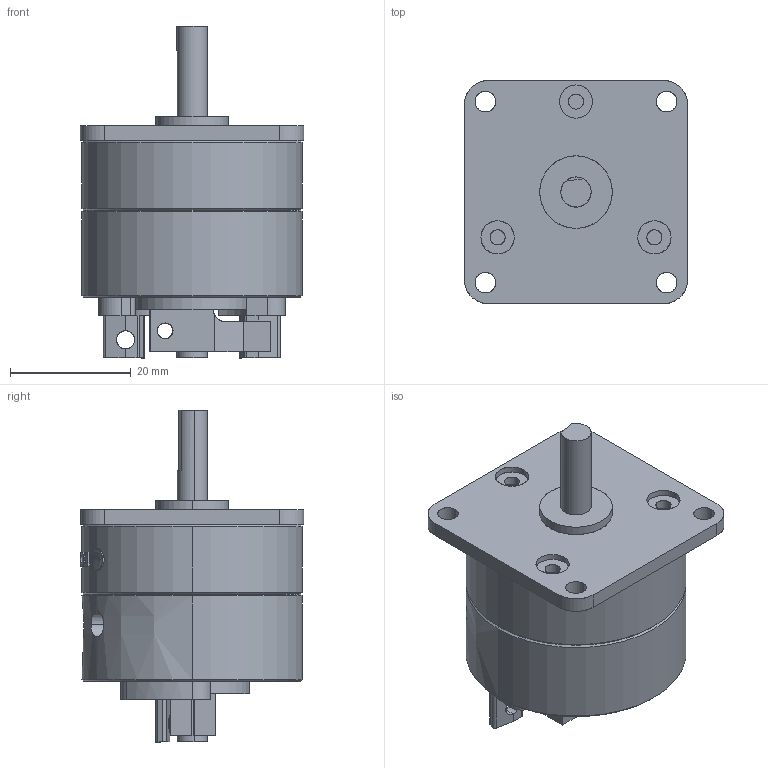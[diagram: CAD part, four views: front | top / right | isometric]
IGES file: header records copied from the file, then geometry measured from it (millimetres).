
Start section: SolidWorks IGES file using analytic representation for surfaces
Global section: file name: C:\Users\Chieh_Lu\Dropbox\¤u§@«Ç\PRO\PROA3S\PROA3S-#-#\PROA3S-#-#-P.IGS; native system: SolidWorks 2014; preprocessor: SolidWorks 2014; author: Chieh_Lu; date: 150801.211253; units: millimetre
Bounding box: 37 x 37.05 x 55 mm (x, y, z)
Surface area: 14576.9 mm2 (no closed solid volume)
Topology: 0 solids, 0 shells, 376 faces, 6057 edges, 6047 vertices
Faces by surface type: revolution 200, bspline 176
